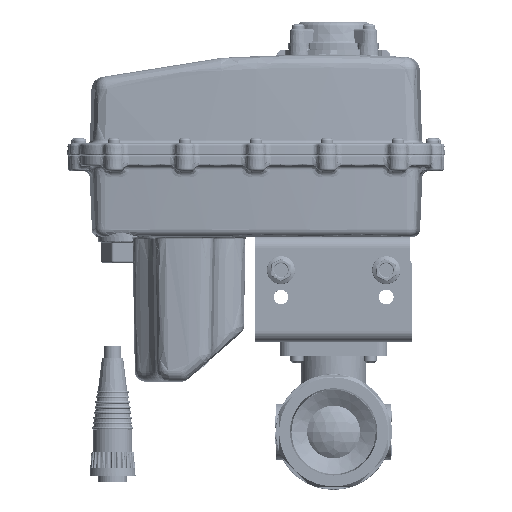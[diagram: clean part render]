
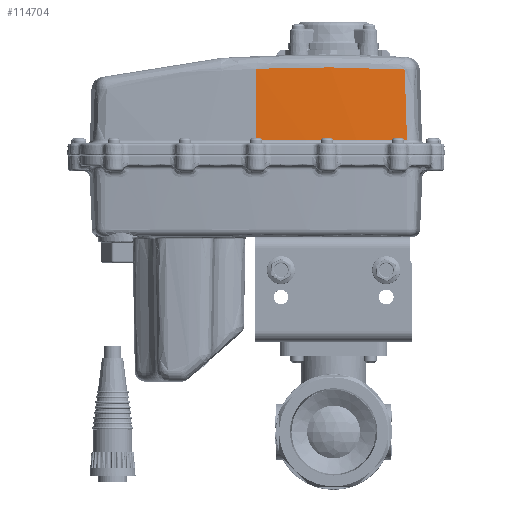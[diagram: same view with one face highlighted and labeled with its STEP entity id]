
A CAD part, top view. The second image highlights one B-rep face of the part: STEP entity #114704.
In plain terms, the highlighted conical face has half-angle 2 degrees and reference radius 762 mm.
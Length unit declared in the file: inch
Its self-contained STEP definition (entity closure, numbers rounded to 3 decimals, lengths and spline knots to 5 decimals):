
#2631 = DIRECTION ( 'NONE',  ( 0., -1., 0. ) ) ;
#7120 = VERTEX_POINT ( 'NONE', #230752 ) ;
#7734 = EDGE_CURVE ( 'NONE', #111556, #7120, #119091, .T. ) ;
#34916 = DIRECTION ( 'NONE',  ( 0., 0., -1. ) ) ;
#37298 = CARTESIAN_POINT ( 'NONE',  ( -0.59325, 9.97674, 12.00045 ) ) ;
#61180 = DIRECTION ( 'NONE',  ( 0., -0.999, 0.035 ) ) ;
#65494 = CARTESIAN_POINT ( 'NONE',  ( -1.5366, 8.25693, 12.07444 ) ) ;
#74835 = CARTESIAN_POINT ( 'NONE',  ( 1.33392, 8.59274, 11.92501 ) ) ;
#95940 = CARTESIAN_POINT ( 'NONE',  ( 1.33392, 8.59274, 11.92501 ) ) ;
#96673 = CARTESIAN_POINT ( 'NONE',  ( -1.5366, 8.59274, 12.06271 ) ) ;
#101995 = ORIENTED_EDGE ( 'NONE', *, *, #355908, .T. ) ;
#102809 = CARTESIAN_POINT ( 'NONE',  ( 0.35022, 9.97468, 11.95867 ) ) ;
#109199 = EDGE_CURVE ( 'NONE', #135946, #111556, #271844, .T. ) ;
#111556 = VERTEX_POINT ( 'NONE', #74835 ) ;
#114704 = ADVANCED_FACE ( 'NONE', ( #201410 ), #284414, .T. ) ;
#119091 = B_SPLINE_CURVE_WITH_KNOTS ( 'NONE', 3,
 ( #95940, #292670, #229181, #255541, #425775, #362446, #224894 ),
 .UNSPECIFIED., .F., .F.,
 ( 4, 3, 4 ),
 ( 0.00854, 0.02413, 0.04272 ),
 .UNSPECIFIED. ) ;
#126031 = EDGE_CURVE ( 'NONE', #396463, #135946, #297135, .T. ) ;
#135776 = DIRECTION ( 'NONE',  ( 0., 0., 1. ) ) ;
#135946 = VERTEX_POINT ( 'NONE', #96673 ) ;
#153837 = ORIENTED_EDGE ( 'NONE', *, *, #126031, .T. ) ;
#170503 = CARTESIAN_POINT ( 'NONE',  ( -1.30084, 9.96104, 12.01493 ) ) ;
#173373 = EDGE_LOOP ( 'NONE', ( #101995, #153837, #330399, #187580 ) ) ;
#187580 = ORIENTED_EDGE ( 'NONE', *, *, #7734, .T. ) ;
#193916 = B_SPLINE_CURVE_WITH_KNOTS ( 'NONE', 3,
 ( #402041, #303857, #102809, #236101, #37298, #299528, #170503, #404189 ),
 .UNSPECIFIED., .F., .F.,
 ( 4, 2, 2, 4 ),
 ( 0., 0.03596, 0.05395, 0.07193 ),
 .UNSPECIFIED. ) ;
#201410 = FACE_OUTER_BOUND ( 'NONE', #173373, .T. ) ;
#224894 = CARTESIAN_POINT ( 'NONE',  ( 1.2905, 9.93689, 11.882 ) ) ;
#229181 = CARTESIAN_POINT ( 'NONE',  ( 1.32073, 9.00145, 11.91194 ) ) ;
#230752 = CARTESIAN_POINT ( 'NONE',  ( 1.2905, 9.93689, 11.882 ) ) ;
#231153 = CARTESIAN_POINT ( 'NONE',  ( -1.5366, 9.95121, 12.01527 ) ) ;
#236101 = CARTESIAN_POINT ( 'NONE',  ( -0.3572, 9.97829, 11.99202 ) ) ;
#255541 = CARTESIAN_POINT ( 'NONE',  ( 1.31413, 9.20581, 11.9054 ) ) ;
#271844 = CIRCLE ( 'NONE', #376274, 29.98827 ) ;
#284414 = CONICAL_SURFACE ( 'NONE', #347415, 30., 0.035 ) ;
#292670 = CARTESIAN_POINT ( 'NONE',  ( 1.32733, 8.79709, 11.91847 ) ) ;
#297135 = LINE ( 'NONE', #65494, #337325 ) ;
#299307 = CARTESIAN_POINT ( 'NONE',  ( -1.5366, 8.59274, -17.92556 ) ) ;
#299528 = CARTESIAN_POINT ( 'NONE',  ( -1.06502, 9.96812, 12.0119 ) ) ;
#301925 = CARTESIAN_POINT ( 'NONE',  ( -1.5366, 8.25693, -17.92556 ) ) ;
#303857 = CARTESIAN_POINT ( 'NONE',  ( 0.82085, 9.96125, 11.92569 ) ) ;
#330399 = ORIENTED_EDGE ( 'NONE', *, *, #109199, .T. ) ;
#337325 = VECTOR ( 'NONE', #61180, 39.37008 ) ;
#347415 = AXIS2_PLACEMENT_3D ( 'NONE', #301925, #2631, #135776 ) ;
#355908 = EDGE_CURVE ( 'NONE', #7120, #396463, #193916, .T. ) ;
#362446 = CARTESIAN_POINT ( 'NONE',  ( 1.29838, 9.6932, 11.8898 ) ) ;
#369137 = DIRECTION ( 'NONE',  ( 0., 1., 0. ) ) ;
#376274 = AXIS2_PLACEMENT_3D ( 'NONE', #299307, #369137, #34916 ) ;
#396463 = VERTEX_POINT ( 'NONE', #231153 ) ;
#402041 = CARTESIAN_POINT ( 'NONE',  ( 1.2905, 9.93689, 11.882 ) ) ;
#404189 = CARTESIAN_POINT ( 'NONE',  ( -1.5366, 9.95121, 12.01527 ) ) ;
#425775 = CARTESIAN_POINT ( 'NONE',  ( 1.30626, 9.4495, 11.8976 ) ) ;
